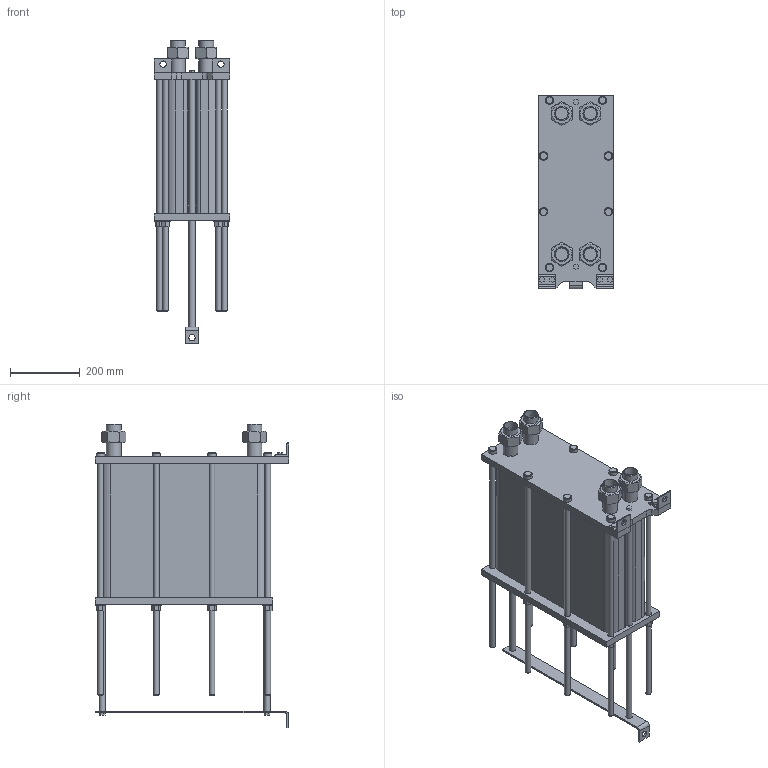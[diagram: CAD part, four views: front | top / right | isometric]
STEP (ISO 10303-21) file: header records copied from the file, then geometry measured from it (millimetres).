
FILE_DESCRIPTION(/* description */ (''),/* implementation_level */ '2;1');
FILE_NAME(/* name */ 'C:\Users\zhuro\Desktop\ENCO\TO\ЭН-004\ЭН-0,5-004-124-1.stp',/* time_stamp */ '2022-06-06T10:55:02+03:00',/* author */ ('zhuro'),/* organization */ (''),/* preprocessor_version */ 'ST-DEVELOPER v18.1',/* originating_system */ 'Autodesk Inventor 2022',/* authorisation */ '');
FILE_SCHEMA (('AUTOMOTIVE_DESIGN { 1 0 10303 214 3 1 1 }'));
Length unit declared in the file: millimetre
Products named in the file (1): ЭН-0,5-004-124-1
Bounding box: 216 x 555 x 872.2 mm (x, y, z)
Volume: 34667318.7 mm3; surface area: 1790865.2 mm2
Topology: 40 solids, 40 shells, 403 faces, 865 edges, 574 vertices
Faces by surface type: plane 272, cylinder 103, cone 28
Full cylindrical faces by diameter (mm): 10 x4, 16 x16, 18 x29, 20 x2, 24 x8, 28 x8, 36.3 x5, 42.3 x9
Entity records: 11137 total; most frequent: CARTESIAN_POINT 1939, DIRECTION 1879, ORIENTED_EDGE 1730, EDGE_CURVE 865, AXIS2_PLACEMENT_3D 658, VERTEX_POINT 574, LINE 563, VECTOR 563
